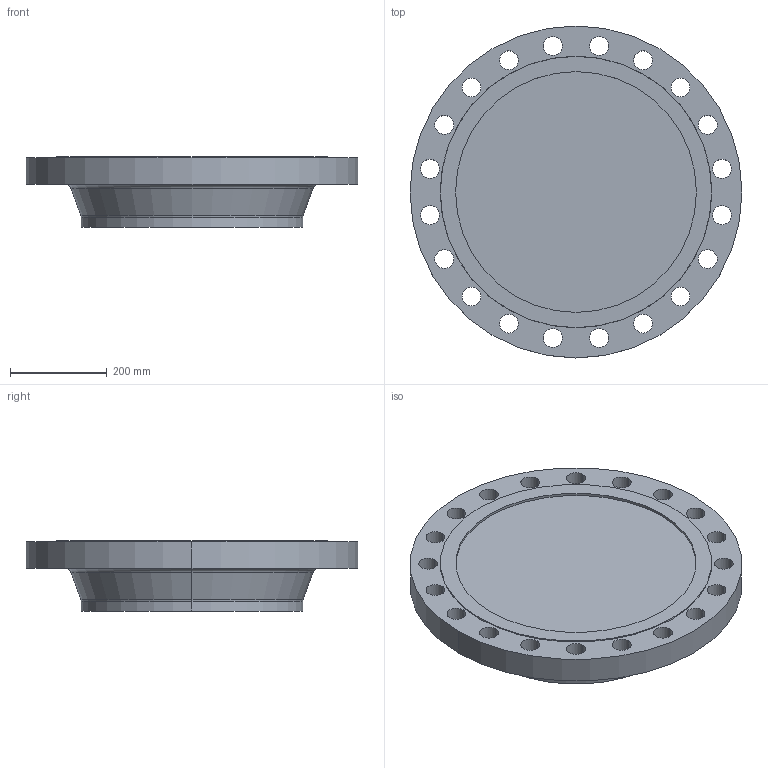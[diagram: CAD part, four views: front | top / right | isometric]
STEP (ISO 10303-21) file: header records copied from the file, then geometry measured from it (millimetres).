
FILE_DESCRIPTION (( 'STEP AP214' ), '1' );
FILE_NAME ('PN40 DN450 Type 21(ii) - Type G Face.STEP', '2018-12-29T04:49:55', ( '' ), ( '' ), 'SwSTEP 2.0', 'SolidWorks 2019', '' );
FILE_SCHEMA (( 'AUTOMOTIVE_DESIGN' ));
Length unit declared in the file: millimetre
Products named in the file (1): PN40 DN450 Type 21(ii) - Type G Face
Bounding box: 685 x 685 x 145 mm (x, y, z)
Volume: 34017022.3 mm3; surface area: 1051880.8 mm2
Topology: 1 solids, 1 shells, 59 faces, 156 edges, 102 vertices
Faces by surface type: cylinder 46, plane 5, torus 4, cone 4
Entity records: 2002 total; most frequent: DIRECTION 382, CARTESIAN_POINT 318, ORIENTED_EDGE 312, AXIS2_PLACEMENT_3D 166, EDGE_CURVE 156, CIRCLE 106, VERTEX_POINT 102, EDGE_LOOP 102
